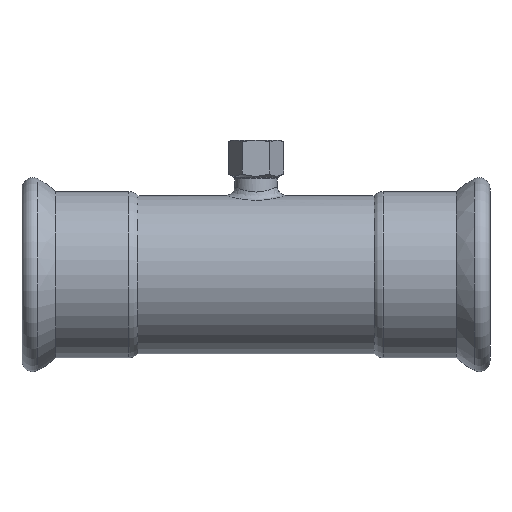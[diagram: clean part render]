
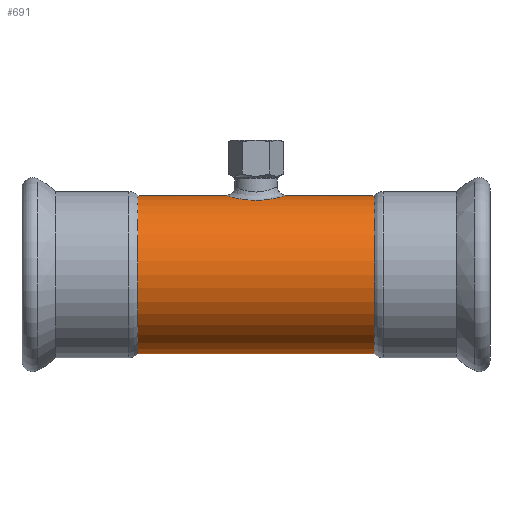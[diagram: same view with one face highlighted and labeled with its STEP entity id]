
A CAD part, front view. The second image highlights one B-rep face of the part: STEP entity #691.
In plain terms, the highlighted cylindrical face has radius 44.45 mm (diameter 88.9 mm), a full revolution.
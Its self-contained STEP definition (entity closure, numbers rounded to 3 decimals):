
#16=B_SPLINE_CURVE_WITH_KNOTS($,3,(#1536,#1537,#1538,#1539,#1540,#1541,
#1542,#1543,#1544,#1545,#1546,#1547,#1548,#1549,#1550,#1551,#1552,#1553,
#1554,#1555,#1556),.UNSPECIFIED.,.T.,.F.,(4,1,1,1,1,1,1,1,1,1,1,1,1,1,1,
3,4),(-7.271,-6.752,-6.233,-5.713,
-5.194,-4.501,-4.155,-3.809,
-3.463,-3.116,-2.597,-2.078,
-1.558,-1.039,-0.519,0.,0.),
 .UNSPECIFIED.);
#107=FACE_BOUND($,#247,.T.);
#108=FACE_BOUND($,#248,.T.);
#138=CYLINDRICAL_SURFACE($,#778,44.45);
#177=FACE_OUTER_BOUND($,#246,.T.);
#246=EDGE_LOOP($,(#611));
#247=EDGE_LOOP($,(#612));
#248=EDGE_LOOP($,(#613));
#342=CIRCLE($,#779,44.45);
#343=CIRCLE($,#780,44.45);
#403=VERTEX_POINT($,#1512);
#405=VERTEX_POINT($,#1559);
#406=VERTEX_POINT($,#1561);
#483=EDGE_CURVE($,#403,#403,#16,.T.);
#484=EDGE_CURVE($,#405,#405,#342,.T.);
#485=EDGE_CURVE($,#406,#406,#343,.T.);
#611=ORIENTED_EDGE($,*,*,#484,.F.);
#612=ORIENTED_EDGE($,*,*,#485,.T.);
#613=ORIENTED_EDGE($,*,*,#483,.F.);
#691=ADVANCED_FACE($,(#177,#107,#108),#138,.T.);
#778=AXIS2_PLACEMENT_3D($,#1558,#948,#949);
#779=AXIS2_PLACEMENT_3D($,#1560,#950,#951);
#780=AXIS2_PLACEMENT_3D($,#1562,#952,#953);
#948=DIRECTION('center_axis',(1.,0.,0.));
#949=DIRECTION('ref_axis',(0.,1.,0.));
#950=DIRECTION('center_axis',(1.,0.,0.));
#951=DIRECTION('ref_axis',(0.,1.,0.));
#952=DIRECTION('center_axis',(1.,0.,0.));
#953=DIRECTION('ref_axis',(0.,1.,0.));
#1512=CARTESIAN_POINT('',(-131.5,-15.281,41.741));
#1536=CARTESIAN_POINT('Ctrl Pts',(-131.5,-15.284,41.739));
#1537=CARTESIAN_POINT('Ctrl Pts',(-128.951,-15.284,41.739));
#1538=CARTESIAN_POINT('Ctrl Pts',(-123.832,-14.218,42.151));
#1539=CARTESIAN_POINT('Ctrl Pts',(-117.799,-9.878,43.458));
#1540=CARTESIAN_POINT('Ctrl Pts',(-114.365,-3.58,44.487));
#1541=CARTESIAN_POINT('Ctrl Pts',(-114.35,4.341,44.498));
#1542=CARTESIAN_POINT('Ctrl Pts',(-118.353,10.506,43.284));
#1543=CARTESIAN_POINT('Ctrl Pts',(-123.965,13.949,42.219));
#1544=CARTESIAN_POINT('Ctrl Pts',(-128.893,15.338,41.721));
#1545=CARTESIAN_POINT('Ctrl Pts',(-134.083,15.34,41.72));
#1546=CARTESIAN_POINT('Ctrl Pts',(-139.84,13.731,42.3));
#1547=CARTESIAN_POINT('Ctrl Pts',(-145.216,9.869,43.459));
#1548=CARTESIAN_POINT('Ctrl Pts',(-148.635,3.569,44.491));
#1549=CARTESIAN_POINT('Ctrl Pts',(-148.642,-3.559,44.49));
#1550=CARTESIAN_POINT('Ctrl Pts',(-145.215,-9.867,43.462));
#1551=CARTESIAN_POINT('Ctrl Pts',(-139.184,-14.212,42.153));
#1552=CARTESIAN_POINT('Ctrl Pts',(-134.049,-15.284,41.739));
#1553=CARTESIAN_POINT('Ctrl Pts',(-131.5,-15.284,41.739));
#1554=CARTESIAN_POINT('Ctrl Pts',(-131.5,-15.284,41.739));
#1555=CARTESIAN_POINT('Ctrl Pts',(-131.5,-15.284,41.739));
#1556=CARTESIAN_POINT('Ctrl Pts',(-131.5,-15.284,41.739));
#1558=CARTESIAN_POINT('Origin',(-74.594,0.,0.));
#1559=CARTESIAN_POINT('',(-65.187,44.45,0.));
#1560=CARTESIAN_POINT('Origin',(-65.187,0.,0.));
#1561=CARTESIAN_POINT('',(-197.813,44.45,0.));
#1562=CARTESIAN_POINT('Origin',(-197.813,0.,0.));
